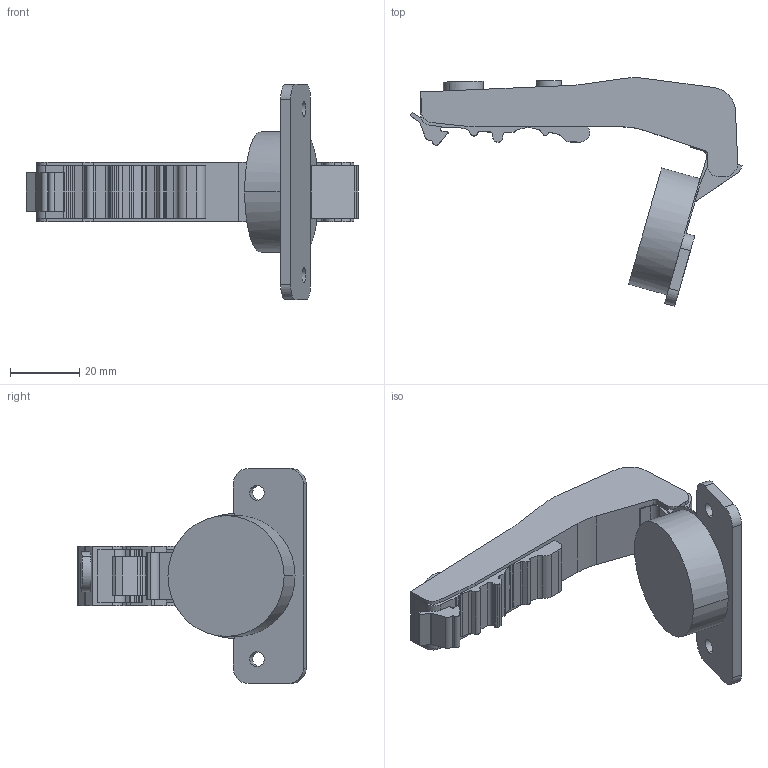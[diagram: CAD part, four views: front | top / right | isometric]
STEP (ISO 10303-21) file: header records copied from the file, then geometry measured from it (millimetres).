
FILE_DESCRIPTION (( 'STEP AP203' ), '1' );
FILE_NAME ('C82J676FA-DTC 3D open.STEP', '2024-09-07T00:44:56', ( '微软用户' ), ( '微软中国' ), 'SwSTEP 2.0', 'SolidWorks 2021', '' );
FILE_SCHEMA (( 'CONFIG_CONTROL_DESIGN' ));
Length unit declared in the file: millimetre
Products named in the file (1): C82J676FA-DTC 3D open
Bounding box: 95.68 x 65.8 x 61.96 mm (x, y, z)
Volume: 39103 mm3; surface area: 12449.9 mm2
Topology: 1 solids, 1 shells, 154 faces, 441 edges, 292 vertices
Faces by surface type: plane 79, cylinder 75
Entity records: 5154 total; most frequent: CARTESIAN_POINT 924, DIRECTION 887, ORIENTED_EDGE 882, EDGE_CURVE 441, AXIS2_PLACEMENT_3D 303, VERTEX_POINT 292, VECTOR 281, LINE 281
